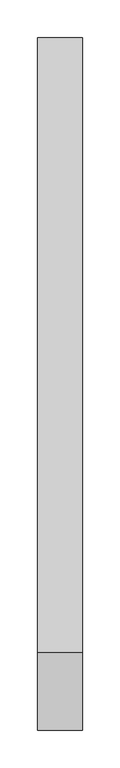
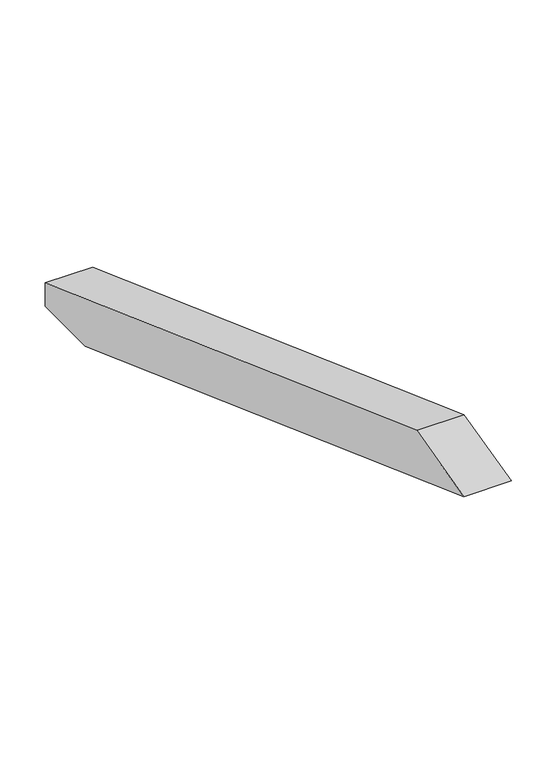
"""IFC4 building model written with IfcOpenShell, lengths in millimetres: proxy geometry, Modelos genéricos 37 : Modelos genéricos 14."""

from ifc_helpers import new_model, si_unit, frame, origin, place, context, project, spatial, polyline, outline, extrude, source, transform, mapped, element, save


def generic_models_a631e91c(model_context):
    return source(origin(), model_context, "Body", "SweptSolid", [
        extrude(outline(polyline([(-422.9933771, 3463.5158927), (-318.8830723, 3489.473507), (498.6238165, 3191.9253332), (498.6238165, 3160.0), (410.9096845, 3160.0), (-422.9933771, 3463.5158927)])), frame((-9026.5527533, 0.0, 0.0), z_axis=(1.0, 0.0, 0.0), x_axis=(0.0, 1.0, 0.0)), (0.0, 0.0, 1.0), 60.0),
    ])


if __name__ == "__main__":
    model = new_model("IFC4")
    model_context = context("Model", 3, world=origin())
    ifc_project = project(units=[si_unit("LENGTHUNIT", "METRE", prefix="MILLI")], contexts=[model_context])
    site = spatial("IfcSite", under=ifc_project)
    building = spatial("IfcBuilding", under=site)
    placement = place(None, origin())
    generic_models_shape = generic_models_a631e91c(model_context)
    element("IfcBuildingElementProxy", 1, Name="Modelos genéricos 37 : Modelos genéricos 14", ObjectType="Modelos genéricos 37 : Modelos genéricos 14", at=placement, inside=building, context=model_context, shape_type="MappedRepresentation", body=[
        mapped(generic_models_shape, transform((0.0, 0.0, 0.0), x_axis=(1.0, 0.0, 0.0), y_axis=(0.0, 1.0, 0.0), z_axis=(0.0, 0.0, 1.0))),
    ])
    save(model, "model.ifc")
